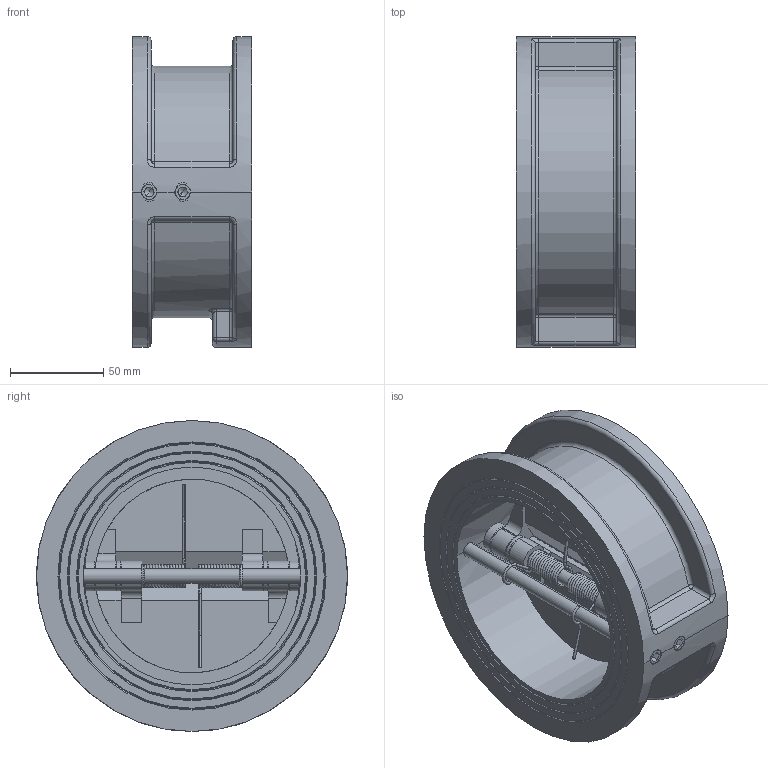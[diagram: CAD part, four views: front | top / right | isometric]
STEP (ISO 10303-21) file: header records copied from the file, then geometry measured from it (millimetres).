
FILE_DESCRIPTION(('Open CASCADE Model'),'2;1');
FILE_NAME('Open CASCADE Shape Model','2022-03-10T07:52:35',('Author'),( 'Open CASCADE'),'Open CASCADE STEP processor 7.3','Open CASCADE 7.3' ,'Unknown');
FILE_SCHEMA(('AUTOMOTIVE_DESIGN { 1 0 10303 214 1 1 1 1 }'));
Length unit declared in the file: millimetre
Products named in the file (21): Open CASCADE STEP translator 7.3 1; Open CASCADE STEP translator 7.3 1.1; Open CASCADE STEP translator 7.3 1.2; Open CASCADE STEP translator 7.3 1.3; Open CASCADE STEP translator 7.3 1.4; Open CASCADE STEP translator 7.3 1.5; Open CASCADE STEP translator 7.3 1.6; Open CASCADE STEP translator 7.3 1.7; Open CASCADE STEP translator 7.3 1.8; Open CASCADE STEP translator 7.3 1.9; Open CASCADE STEP translator 7.3 1.10; Open CASCADE STEP translator 7.3 1.11; Open CASCADE STEP translator 7.3 1.12; Open CASCADE STEP translator 7.3 1.13; Open CASCADE STEP translator 7.3 1.14; Open CASCADE STEP translator 7.3 1.15; Open CASCADE STEP translator 7.3 1.16; Open CASCADE STEP translator 7.3 1.17; Open CASCADE STEP translator 7.3 1.18; Open CASCADE STEP translator 7.3 1.19; Open CASCADE STEP translator 7.3 1.20
Assembly tree (20 placements, depth 2):
  Open CASCADE STEP translator 7.3 1
    Open CASCADE STEP translator 7.3 1.1
    Open CASCADE STEP translator 7.3 1.2
    Open CASCADE STEP translator 7.3 1.3
    Open CASCADE STEP translator 7.3 1.4
    Open CASCADE STEP translator 7.3 1.5
    Open CASCADE STEP translator 7.3 1.6
    Open CASCADE STEP translator 7.3 1.7
    Open CASCADE STEP translator 7.3 1.8
    Open CASCADE STEP translator 7.3 1.9
    Open CASCADE STEP translator 7.3 1.10
    Open CASCADE STEP translator 7.3 1.11
    Open CASCADE STEP translator 7.3 1.12
    Open CASCADE STEP translator 7.3 1.13
    Open CASCADE STEP translator 7.3 1.14
    Open CASCADE STEP translator 7.3 1.15
    Open CASCADE STEP translator 7.3 1.16
    Open CASCADE STEP translator 7.3 1.17
    Open CASCADE STEP translator 7.3 1.18
    Open CASCADE STEP translator 7.3 1.19
    Open CASCADE STEP translator 7.3 1.20
Bounding box: 64 x 167 x 167 mm (x, y, z)
Volume: 616390.6 mm3; surface area: 162553.7 mm2
Topology: 20 solids, 20 shells, 444 faces, 1052 edges, 626 vertices
Faces by surface type: cylinder 148, plane 146, cone 90, torus 32, bspline 16, sphere 12
Entity records: 46162 total; most frequent: CARTESIAN_POINT 25204, DIRECTION 3935, ORIENTED_EDGE 2064, PCURVE 2064, DEFINITIONAL_REPRESENTATION 2064, LINE 1940, VECTOR 1940, EDGE_CURVE 1032
